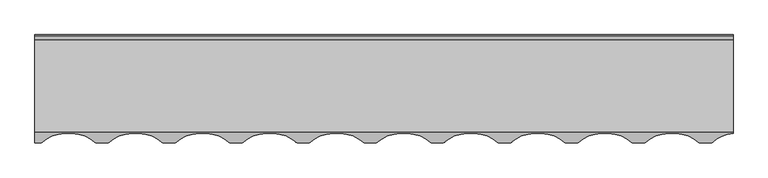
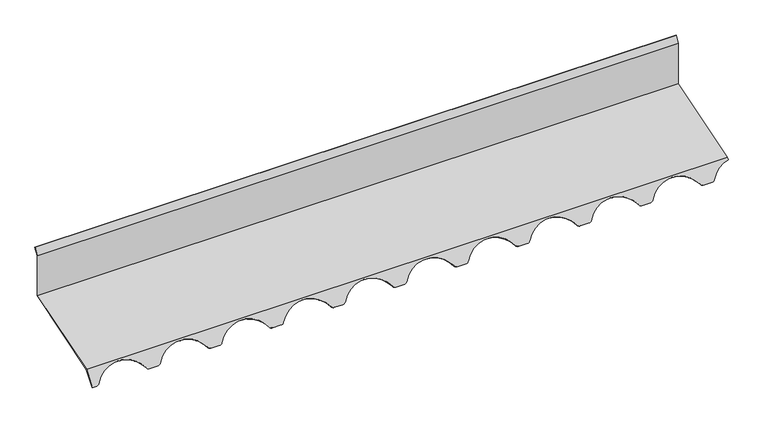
"""IFC4 building model written with IfcOpenShell, lengths in millimetres: proxy geometry, H20.F20.003-E-REMATES TEJA-Troquelado a Pared : Troquelado a Pared Teja."""

import ifcopenshell
import ifcopenshell.guid

model = None  # the IFC model being written
_history = None  # IfcOwnerHistory: only IFC2X3 demands one
_inside = {}  # id of a spatial element -> (the spatial element, [elements in it])
_under = {}  # id of a project, library or spatial element -> (it, [spatial elements below it])
_declared = {}  # id of a project -> (the project, [libraries it declares])
_typed = {}  # id of a type object -> (the type object, [elements of that type])
_made_of = {}  # id of a material, layer set ... -> (it, [elements and type objects made of it])


def new_model(schema):
    """Start an empty IFC model of exactly this schema.

    Asked for "IFC4X3", IfcOpenShell would pick the latest addendum, in which some entities
    have other attributes; the version numbers below select the first issue.
    IFC2X3 requires an IfcOwnerHistory on every rooted entity: one is made here for all.
    """
    global model, _history
    if schema == "IFC4X3":
        model = ifcopenshell.file(schema_version=(4, 3, 0, 0))
    else:
        model = ifcopenshell.file(schema=schema)
    _inside.clear()
    _under.clear()
    _declared.clear()
    _typed.clear()
    _made_of.clear()
    _history = None
    if model.schema == "IFC2X3":
        org = make("IfcOrganization", Name="unknown")
        user = make(
            "IfcPersonAndOrganization",
            ThePerson=make("IfcPerson", FamilyName="unknown"),
            TheOrganization=org,
        )
        app = make(
            "IfcApplication",
            ApplicationDeveloper=org,
            Version="unknown",
            ApplicationFullName="unknown",
            ApplicationIdentifier="unknown",
        )
        _history = make(
            "IfcOwnerHistory",
            OwningUser=user,
            OwningApplication=app,
            ChangeAction="ADDED",
            CreationDate=0,
        )
    return model


def make(cls, **values):
    """One entity of the class cls with the attributes given. An attribute that is None is left unset."""
    return model.create_entity(
        cls, **{name: value for name, value in values.items() if value is not None}
    )


def rooted(cls, **values):
    """An entity with a GlobalId (a new one), such as an element, a storey or a relation."""
    return make(cls, GlobalId=ifcopenshell.guid.new(), OwnerHistory=_history, **values)


def si_unit(unit_type, name, prefix=None):
    """IfcSIUnit, for example si_unit("LENGTHUNIT", "METRE", prefix="MILLI")."""
    return make("IfcSIUnit", UnitType=unit_type, Prefix=prefix, Name=name)


def assignment(units):
    """IfcUnitAssignment: the units of a project."""
    return None if units is None else make("IfcUnitAssignment", Units=units)


def point(xyz):
    """IfcCartesianPoint."""
    return None if xyz is None else make("IfcCartesianPoint", Coordinates=xyz)


def direction(xyz):
    """IfcDirection."""
    return None if xyz is None else make("IfcDirection", DirectionRatios=xyz)


def frame(location, z_axis=None, x_axis=None):
    """IfcAxis2Placement3D, a coordinate frame: its origin and axes. An axis left out is left unset."""
    return make(
        "IfcAxis2Placement3D",
        Location=point(location),
        Axis=direction(z_axis),
        RefDirection=direction(x_axis),
    )


def origin():
    """The frame at (0, 0, 0) with its axes left unset."""
    return frame((0.0, 0.0, 0.0))


def place(relative_to, where):
    """IfcLocalPlacement: puts the frame where relative to a parent placement (None: the world)."""
    return make(
        "IfcLocalPlacement", PlacementRelTo=relative_to, RelativePlacement=where
    )


def context(
    kind, dimensions, precision=None, world=None, true_north=None, identifier=None
):
    """IfcGeometricRepresentationContext, for example the 3D "Model" context."""
    return make(
        "IfcGeometricRepresentationContext",
        ContextIdentifier=identifier,
        ContextType=kind,
        CoordinateSpaceDimension=dimensions,
        Precision=precision,
        WorldCoordinateSystem=world,
        TrueNorth=true_north,
    )


def project(units=None, contexts=None):
    """IfcProject with its units and contexts."""
    return rooted(
        "IfcProject",
        Name="project",
        RepresentationContexts=contexts,
        UnitsInContext=assignment(units),
    )


def spatial(cls, under=None, at=None, **own):
    """A site, building, storey or space (cls), placed at a placement, below another one or the project."""
    s = rooted(cls, ObjectPlacement=at, **own)
    if under is not None:
        _under.setdefault(under.id(), (under, []))[1].append(s)
    return s


def ellipse_curve(where, semi_axis1, semi_axis2):
    """IfcEllipse in the frame where."""
    return make(
        "IfcEllipse", Position=where, SemiAxis1=semi_axis1, SemiAxis2=semi_axis2
    )


def trimmed(basis, trim1, trim2, sense, master):
    """IfcTrimmedCurve: the piece of a basis curve between two trims."""
    return make(
        "IfcTrimmedCurve",
        BasisCurve=basis,
        Trim1=trim1,
        Trim2=trim2,
        SenseAgreement=sense,
        MasterRepresentation=master,
    )


def shape(context_of_items, identifier, shape_type, items):
    """IfcShapeRepresentation: the items that make up one representation, for example the "Body"."""
    return make(
        "IfcShapeRepresentation",
        ContextOfItems=context_of_items,
        RepresentationIdentifier=identifier,
        RepresentationType=shape_type,
        Items=items,
    )


def source(mapping_origin, context_of_items, identifier, shape_type, items):
    """IfcRepresentationMap: a shape defined once, which mapped items show again and again."""
    return make(
        "IfcRepresentationMap",
        MappingOrigin=mapping_origin,
        MappedRepresentation=shape(context_of_items, identifier, shape_type, items),
    )


def transform(
    local_origin,
    x_axis=None,
    y_axis=None,
    z_axis=None,
    scale=None,
    scale2=None,
    scale3=None,
    uniform=True,
):
    """IfcCartesianTransformationOperator3D, or its non-uniform kind. x_axis, y_axis, z_axis: its Axis1, 2, 3."""
    if uniform:
        return make(
            "IfcCartesianTransformationOperator3D",
            Axis1=direction(x_axis),
            Axis2=direction(y_axis),
            LocalOrigin=point(local_origin),
            Scale=scale,
            Axis3=direction(z_axis),
        )
    return make(
        "IfcCartesianTransformationOperator3DnonUniform",
        Axis1=direction(x_axis),
        Axis2=direction(y_axis),
        LocalOrigin=point(local_origin),
        Scale=scale,
        Axis3=direction(z_axis),
        Scale2=scale2,
        Scale3=scale3,
    )


def mapped(mapping_source, mapping_target):
    """IfcMappedItem: shows the shape of a source again, moved by a transform."""
    return make(
        "IfcMappedItem", MappingSource=mapping_source, MappingTarget=mapping_target
    )


def made_of(thing, what):
    """Note that an element or type object is made of a material, layer set ...; save() writes the relation."""
    if what is not None:
        _made_of.setdefault(what.id(), (what, []))[1].append(thing)
    return thing


def element(
    cls,
    number,
    at=None,
    inside=None,
    cuts=None,
    type_object=None,
    material=None,
    context=None,
    identifier="Body",
    shape_type=None,
    held_by="IfcProductDefinitionShape",
    body=None,
    shapes=None,
    **own,
):
    """One element of the class cls, such as IfcWall. Its Tag is "e" and its number.

    at: its placement. inside: the storey or other place that contains it. cuts: it is an
    opening in that element (IfcRelVoidsElement). A single representation is given by context,
    identifier, shape_type and body (its items); several are given by shapes. held_by: the class
    of the entity that holds the representations. save() writes the other relations.
    """
    e = rooted(cls, Tag="e%d" % number, ObjectPlacement=at, **own)
    if body is not None:
        shapes = [shape(context, identifier, shape_type, body)]
    if shapes is not None:
        e.Representation = make(held_by, Representations=shapes)
    if inside is not None:
        _inside.setdefault(inside.id(), (inside, []))[1].append(e)
    if cuts is not None:
        rooted(
            "IfcRelVoidsElement", RelatingBuildingElement=cuts, RelatedOpeningElement=e
        )
    if type_object is not None:
        _typed.setdefault(type_object.id(), (type_object, []))[1].append(e)
    return made_of(e, material)


def aggregate(whole, parts):
    """IfcRelAggregates: a whole, such as a stair, and the parts it consists of."""
    return rooted("IfcRelAggregates", RelatingObject=whole, RelatedObjects=parts)


def save(model, path):
    """Write the relations noted so far, then the file.

    IfcRelAggregates (storeys below a building ...), IfcRelContainedInSpatialStructure (elements
    in a storey), IfcRelDefinesByType, IfcRelAssociatesMaterial and IfcRelDeclares: one each for
    every whole, place, type object, material and project.
    """
    for whole, parts in _under.values():
        aggregate(whole, parts)
    for where, things in _inside.values():
        rooted(
            "IfcRelContainedInSpatialStructure",
            RelatedElements=things,
            RelatingStructure=where,
        )
    for kind, things in _typed.values():
        rooted("IfcRelDefinesByType", RelatedObjects=things, RelatingType=kind)
    for what, things in _made_of.values():
        rooted("IfcRelAssociatesMaterial", RelatedObjects=things, RelatingMaterial=what)
    for by, libraries in _declared.values():
        rooted("IfcRelDeclares", RelatingContext=by, RelatedDefinitions=libraries)
    model.write(path)


def plane_surface(at):
    """IfcPlane: the flat surface through the origin of the frame at, square to its z axis."""
    return make("IfcPlane", Position=at)


def extruded_surface(curve, direction_of_extrusion, depth):
    """IfcSurfaceOfLinearExtrusion: the curve pushed along a direction by depth."""
    return make(
        "IfcSurfaceOfLinearExtrusion",
        SweptCurve=make("IfcArbitraryOpenProfileDef", ProfileType="CURVE", Curve=curve),
        ExtrudedDirection=direction(direction_of_extrusion),
        Depth=depth,
    )


def advanced_brep(points, edges, surfaces, faces):
    """IfcAdvancedBrep: a solid bounded by faces that lie on surfaces and meet in shared edges.

    An edge is (start, end): straight between two places in points (the first is 0);
    or (start, end, curve); or (start, end, curve, False) where it runs against its curve.
    A face is (place in surfaces, loops), or (place, loops, False) where it looks against
    its surface's normal. A loop lists edges by number (the first is 1), with a minus sign
    where the edge is run from its end to its start. The first loop is the outer one.
    """
    corners = [point(p) for p in points]
    vertices = [make("IfcVertexPoint", VertexGeometry=c) for c in corners]
    made = []
    for start, end, *more in edges:
        made.append(
            make(
                "IfcEdgeCurve",
                EdgeStart=vertices[start],
                EdgeEnd=vertices[end],
                EdgeGeometry=more[0] if more else make("IfcPolyline", Points=[corners[start], corners[end]]),
                SameSense=more[1] if len(more) > 1 else True,
            )
        )
    hull = []
    for where, loops, *sense in faces:
        bounds = []
        for j, loop in enumerate(loops):
            ring = [make("IfcOrientedEdge", EdgeElement=made[abs(k) - 1], Orientation=k > 0) for k in loop]
            bounds.append(
                make(
                    "IfcFaceOuterBound" if j == 0 else "IfcFaceBound",
                    Bound=make("IfcEdgeLoop", EdgeList=ring),
                    Orientation=True,
                )
            )
        hull.append(make("IfcAdvancedFace", Bounds=bounds, FaceSurface=surfaces[where], SameSense=sense[0] if sense else True))
    return make("IfcAdvancedBrep", Outer=make("IfcClosedShell", CfsFaces=hull))


def generic_models_c7695958(model_context):
    return source(origin(), model_context, "Body", "AdvancedBrep", [
        advanced_brep(
        [(0.0, 0.0, 0.0), (0.0, 0.0, 115.0), (0.0, 10.0, 132.3205081), (0.0, 11.5588457, 131.4205081), (0.0, 1.6, 114.1712813), (0.0, 1.6, -1.1839377), (0.0, -229.5451993, -71.852117), (0.0, -256.3431683, -107.3544315), (0.0, -257.6202057, -106.3904941), (0.0, -230.5094655, -70.473816), (1735.0, -230.5094655, -70.473816), (1735.0, 0.0, 0.0), (12.0278261, -257.6202057, -106.3904941), (18.9419763, -255.2613563, -103.2654582), (147.7180237, -255.2613563, -103.2654582), (154.6321739, -257.6202057, -106.3904941), (178.6878261, -257.6202057, -106.3904941), (185.6019763, -255.2613563, -103.2654582), (314.3780237, -255.2613563, -103.2654582), (321.2921739, -257.6202057, -106.3904941), (345.3478261, -257.6202057, -106.3904941), (352.2619763, -255.2613563, -103.2654582), (481.0380237, -255.2613563, -103.2654582), (487.9521739, -257.6202057, -106.3904941), (512.0078261, -257.6202057, -106.3904941), (518.9219763, -255.2613563, -103.2654582), (647.6980237, -255.2613563, -103.2654582), (654.6121739, -257.6202057, -106.3904941), (678.6678261, -257.6202057, -106.3904941), (685.5819763, -255.2613563, -103.2654582), (814.3580237, -255.2613563, -103.2654582), (821.2721739, -257.6202057, -106.3904941), (845.3278261, -257.6202057, -106.3904941), (852.2419763, -255.2613563, -103.2654582), (981.0180237, -255.2613563, -103.2654582), (987.9321739, -257.6202057, -106.3904941), (1011.9878261, -257.6202057, -106.3904941), (1018.9019763, -255.2613563, -103.2654582), (1147.6780237, -255.2613563, -103.2654582), (1154.5921739, -257.6202057, -106.3904941), (1178.6478261, -257.6202057, -106.3904941), (1185.5619763, -255.2613563, -103.2654582), (1314.3380237, -255.2613563, -103.2654582), (1321.2521739, -257.6202057, -106.3904941), (1345.3078261, -257.6202057, -106.3904941), (1352.2219763, -255.2613563, -103.2654582), (1480.9980237, -255.2613563, -103.2654582), (1487.9121739, -257.6202057, -106.3904941), (1511.9678261, -257.6202057, -106.3904941), (1518.8819763, -255.2613563, -103.2654582), (1647.6580237, -255.2613563, -103.2654582), (1654.5721739, -257.6202057, -106.3904941), (1678.6278261, -257.6202057, -106.3904941), (1685.5419763, -255.2613563, -103.2654582), (1735.0, -234.1912591, -75.3515063), (12.0278261, -256.3431683, -107.3544315), (154.6321739, -256.3431683, -107.3544315), (178.6878261, -256.3431683, -107.3544315), (321.2921739, -256.3431683, -107.3544315), (345.3478261, -256.3431683, -107.3544315), (487.9521739, -256.3431683, -107.3544315), (512.0078261, -256.3431683, -107.3544315), (654.6121739, -256.3431683, -107.3544315), (678.6678261, -256.3431683, -107.3544315), (821.2721739, -256.3431683, -107.3544315), (845.3278261, -256.3431683, -107.3544315), (987.9321739, -256.3431683, -107.3544315), (1011.9878261, -256.3431683, -107.3544315), (1154.5921739, -256.3431683, -107.3544315), (1178.6478261, -256.3431683, -107.3544315), (1321.2521739, -256.3431683, -107.3544315), (1345.3078261, -256.3431683, -107.3544315), (1487.9121739, -256.3431683, -107.3544315), (1511.9678261, -256.3431683, -107.3544315), (1654.5721739, -256.3431683, -107.3544315), (1678.6278261, -256.3431683, -107.3544315), (1735.0, -229.5451993, -71.852117), (1735.0, -232.9142216, -76.3154437), (1685.5419763, -253.9843188, -104.2293957), (1647.6580237, -253.9843188, -104.2293957), (1518.8819763, -253.9843188, -104.2293957), (1480.9980237, -253.9843188, -104.2293957), (1352.2219763, -253.9843188, -104.2293957), (1314.3380237, -253.9843188, -104.2293957), (1185.5619763, -253.9843188, -104.2293957), (1147.6780237, -253.9843188, -104.2293957), (1018.9019763, -253.9843188, -104.2293957), (981.0180237, -253.9843188, -104.2293957), (852.2419763, -253.9843188, -104.2293957), (814.3580237, -253.9843188, -104.2293957), (685.5819763, -253.9843188, -104.2293957), (647.6980237, -253.9843188, -104.2293957), (518.9219763, -253.9843188, -104.2293957), (481.0380237, -253.9843188, -104.2293957), (352.2619763, -253.9843188, -104.2293957), (314.3780237, -253.9843188, -104.2293957), (185.6019763, -253.9843188, -104.2293957), (147.7180237, -253.9843188, -104.2293957), (18.9419763, -253.9843188, -104.2293957), (1735.0, 1.6, -1.1839377), (1735.0, 1.6, 114.1712813), (1735.0, 11.5588457, 131.4205081), (1735.0, 10.0, 132.3205081), (1735.0, 0.0, 115.0)],
        [
            (0, 1),
            (1, 2),
            (2, 3),
            (3, 4),
            (4, 5),
            (5, 6),
            (6, 7),
            (7, 8),
            (8, 9),
            (9, 0),
            (9, 10),
            (10, 11),
            (11, 0),
            (8, 12),
            (12, 13, ellipse_curve(frame((12.0278261, -252.8737404, -100.1023122), z_axis=(0.0, -0.7981484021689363, 0.6024608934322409), x_axis=(1.0, 0.0, 0.0)), 8.0, 7.878462)),
            (13, 14, ellipse_curve(frame((83.33, -277.496029, -132.7222557), z_axis=(0.0, 0.7981484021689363, -0.6024608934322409), x_axis=(1.0, 0.0, 0.0)), 74.5, 73.3681776)),
            (14, 15, ellipse_curve(frame((154.6321739, -252.8737404, -100.1023122), z_axis=(0.0, -0.7981484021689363, 0.6024608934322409), x_axis=(1.0, 0.0, 0.0)), 8.0, 7.878462)),
            (15, 16),
            (16, 17, ellipse_curve(frame((178.6878261, -252.8737404, -100.1023122), z_axis=(0.0, -0.7981484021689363, 0.6024608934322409), x_axis=(1.0, 0.0, 0.0)), 8.0, 7.878462)),
            (17, 18, ellipse_curve(frame((249.99, -277.496029, -132.7222557), z_axis=(0.0, 0.7981484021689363, -0.6024608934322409), x_axis=(1.0, 0.0, 0.0)), 74.5, 73.3681776)),
            (18, 19, ellipse_curve(frame((321.2921739, -252.8737404, -100.1023122), z_axis=(0.0, -0.7981484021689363, 0.6024608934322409), x_axis=(1.0, 0.0, 0.0)), 8.0, 7.878462)),
            (19, 20),
            (20, 21, ellipse_curve(frame((345.3478261, -252.8737404, -100.1023122), z_axis=(0.0, -0.7981484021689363, 0.6024608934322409), x_axis=(1.0, 0.0, 0.0)), 8.0, 7.878462)),
            (21, 22, ellipse_curve(frame((416.65, -277.496029, -132.7222557), z_axis=(0.0, 0.7981484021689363, -0.6024608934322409), x_axis=(1.0, 0.0, 0.0)), 74.5, 73.3681776)),
            (22, 23, ellipse_curve(frame((487.9521739, -252.8737404, -100.1023122), z_axis=(0.0, -0.7981484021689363, 0.6024608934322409), x_axis=(1.0, 0.0, 0.0)), 8.0, 7.878462)),
            (23, 24),
            (24, 25, ellipse_curve(frame((512.0078261, -252.8737404, -100.1023122), z_axis=(0.0, -0.7981484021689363, 0.6024608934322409), x_axis=(1.0, 0.0, 0.0)), 8.0, 7.878462)),
            (25, 26, ellipse_curve(frame((583.31, -277.496029, -132.7222557), z_axis=(0.0, 0.7981484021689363, -0.6024608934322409), x_axis=(1.0, 0.0, 0.0)), 74.5, 73.3681776)),
            (26, 27, ellipse_curve(frame((654.6121739, -252.8737404, -100.1023122), z_axis=(0.0, -0.7981484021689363, 0.6024608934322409), x_axis=(1.0, 0.0, 0.0)), 8.0, 7.878462)),
            (27, 28),
            (28, 29, ellipse_curve(frame((678.6678261, -252.8737404, -100.1023122), z_axis=(0.0, -0.7981484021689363, 0.6024608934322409), x_axis=(1.0, 0.0, 0.0)), 8.0, 7.878462)),
            (29, 30, ellipse_curve(frame((749.97, -277.496029, -132.7222557), z_axis=(0.0, 0.7981484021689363, -0.6024608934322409), x_axis=(1.0, 0.0, 0.0)), 74.5, 73.3681776)),
            (30, 31, ellipse_curve(frame((821.2721739, -252.8737404, -100.1023122), z_axis=(0.0, -0.7981484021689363, 0.6024608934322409), x_axis=(1.0, 0.0, 0.0)), 8.0, 7.878462)),
            (31, 32),
            (32, 33, ellipse_curve(frame((845.3278261, -252.8737404, -100.1023122), z_axis=(0.0, -0.7981484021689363, 0.6024608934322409), x_axis=(1.0, 0.0, 0.0)), 8.0, 7.878462)),
            (33, 34, ellipse_curve(frame((916.63, -277.496029, -132.7222557), z_axis=(0.0, 0.7981484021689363, -0.6024608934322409), x_axis=(1.0, 0.0, 0.0)), 74.5, 73.3681776)),
            (34, 35, ellipse_curve(frame((987.9321739, -252.8737404, -100.1023122), z_axis=(0.0, -0.7981484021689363, 0.6024608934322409), x_axis=(1.0, 0.0, 0.0)), 8.0, 7.878462)),
            (35, 36),
            (36, 37, ellipse_curve(frame((1011.9878261, -252.8737404, -100.1023122), z_axis=(0.0, -0.7981484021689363, 0.6024608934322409), x_axis=(1.0, 0.0, 0.0)), 8.0, 7.878462)),
            (37, 38, ellipse_curve(frame((1083.29, -277.496029, -132.7222557), z_axis=(0.0, 0.7981484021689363, -0.6024608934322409), x_axis=(1.0, 0.0, 0.0)), 74.5, 73.3681776)),
            (38, 39, ellipse_curve(frame((1154.5921739, -252.8737404, -100.1023122), z_axis=(0.0, -0.7981484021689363, 0.6024608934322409), x_axis=(1.0, 0.0, 0.0)), 8.0, 7.878462)),
            (39, 40),
            (40, 41, ellipse_curve(frame((1178.6478261, -252.8737404, -100.1023122), z_axis=(0.0, -0.7981484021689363, 0.6024608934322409), x_axis=(1.0, 0.0, 0.0)), 8.0, 7.878462)),
            (41, 42, ellipse_curve(frame((1249.95, -277.496029, -132.7222557), z_axis=(0.0, 0.7981484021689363, -0.6024608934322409), x_axis=(1.0, 0.0, 0.0)), 74.5, 73.3681776)),
            (42, 43, ellipse_curve(frame((1321.2521739, -252.8737404, -100.1023122), z_axis=(0.0, -0.7981484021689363, 0.6024608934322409), x_axis=(1.0, 0.0, 0.0)), 8.0, 7.878462)),
            (43, 44),
            (44, 45, ellipse_curve(frame((1345.3078261, -252.8737404, -100.1023122), z_axis=(0.0, -0.7981484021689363, 0.6024608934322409), x_axis=(1.0, 0.0, 0.0)), 8.0, 7.878462)),
            (45, 46, ellipse_curve(frame((1416.61, -277.496029, -132.7222557), z_axis=(0.0, 0.7981484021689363, -0.6024608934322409), x_axis=(1.0, 0.0, 0.0)), 74.5, 73.3681776)),
            (46, 47, ellipse_curve(frame((1487.9121739, -252.8737404, -100.1023122), z_axis=(0.0, -0.7981484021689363, 0.6024608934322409), x_axis=(1.0, 0.0, 0.0)), 8.0, 7.878462)),
            (47, 48),
            (48, 49, ellipse_curve(frame((1511.9678261, -252.8737404, -100.1023122), z_axis=(0.0, -0.7981484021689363, 0.6024608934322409), x_axis=(1.0, 0.0, 0.0)), 8.0, 7.878462)),
            (49, 50, ellipse_curve(frame((1583.27, -277.496029, -132.7222557), z_axis=(0.0, 0.7981484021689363, -0.6024608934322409), x_axis=(1.0, 0.0, 0.0)), 74.5, 73.3681776)),
            (50, 51, ellipse_curve(frame((1654.5721739, -252.8737404, -100.1023122), z_axis=(0.0, -0.7981484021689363, 0.6024608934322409), x_axis=(1.0, 0.0, 0.0)), 8.0, 7.878462)),
            (51, 52),
            (52, 53, ellipse_curve(frame((1678.6278261, -252.8737404, -100.1023122), z_axis=(0.0, -0.7981484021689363, 0.6024608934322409), x_axis=(1.0, 0.0, 0.0)), 8.0, 7.878462)),
            (53, 54, ellipse_curve(frame((1749.93, -277.496029, -132.7222557), z_axis=(0.0, 0.7981484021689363, -0.6024608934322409), x_axis=(1.0, 0.0, 0.0)), 74.5, 73.3681776)),
            (54, 10),
            (7, 55),
            (55, 12),
            (15, 56),
            (56, 57),
            (57, 16),
            (19, 58),
            (58, 59),
            (59, 20),
            (23, 60),
            (60, 61),
            (61, 24),
            (27, 62),
            (62, 63),
            (63, 28),
            (31, 64),
            (64, 65),
            (65, 32),
            (35, 66),
            (66, 67),
            (67, 36),
            (39, 68),
            (68, 69),
            (69, 40),
            (43, 70),
            (70, 71),
            (71, 44),
            (47, 72),
            (72, 73),
            (73, 48),
            (51, 74),
            (74, 75),
            (75, 52),
            (6, 76),
            (76, 77),
            (77, 78, ellipse_curve(frame((1749.93, -276.2189916, -133.6861931), z_axis=(0.0, -0.7981484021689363, 0.6024608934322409), x_axis=(1.0, 0.0, 0.0)), 74.5, 73.3681776)),
            (78, 75, ellipse_curve(frame((1678.6278261, -251.596703, -101.0662496), z_axis=(0.0, 0.7981484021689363, -0.6024608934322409), x_axis=(1.0, 0.0, 0.0)), 8.0, 7.878462)),
            (74, 79, ellipse_curve(frame((1654.5721739, -251.596703, -101.0662496), z_axis=(0.0, 0.7981484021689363, -0.6024608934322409), x_axis=(1.0, 0.0, 0.0)), 8.0, 7.878462)),
            (79, 80, ellipse_curve(frame((1583.27, -276.2189916, -133.6861931), z_axis=(0.0, -0.7981484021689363, 0.6024608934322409), x_axis=(1.0, 0.0, 0.0)), 74.5, 73.3681776)),
            (80, 73, ellipse_curve(frame((1511.9678261, -251.596703, -101.0662496), z_axis=(0.0, 0.7981484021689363, -0.6024608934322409), x_axis=(1.0, 0.0, 0.0)), 8.0, 7.878462)),
            (72, 81, ellipse_curve(frame((1487.9121739, -251.596703, -101.0662496), z_axis=(0.0, 0.7981484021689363, -0.6024608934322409), x_axis=(1.0, 0.0, 0.0)), 8.0, 7.878462)),
            (81, 82, ellipse_curve(frame((1416.61, -276.2189916, -133.6861931), z_axis=(0.0, -0.7981484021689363, 0.6024608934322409), x_axis=(1.0, 0.0, 0.0)), 74.5, 73.3681776)),
            (82, 71, ellipse_curve(frame((1345.3078261, -251.596703, -101.0662496), z_axis=(0.0, 0.7981484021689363, -0.6024608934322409), x_axis=(1.0, 0.0, 0.0)), 8.0, 7.878462)),
            (70, 83, ellipse_curve(frame((1321.2521739, -251.596703, -101.0662496), z_axis=(0.0, 0.7981484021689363, -0.6024608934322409), x_axis=(1.0, 0.0, 0.0)), 8.0, 7.878462)),
            (83, 84, ellipse_curve(frame((1249.95, -276.2189916, -133.6861931), z_axis=(0.0, -0.7981484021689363, 0.6024608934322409), x_axis=(1.0, 0.0, 0.0)), 74.5, 73.3681776)),
            (84, 69, ellipse_curve(frame((1178.6478261, -251.596703, -101.0662496), z_axis=(0.0, 0.7981484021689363, -0.6024608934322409), x_axis=(1.0, 0.0, 0.0)), 8.0, 7.878462)),
            (68, 85, ellipse_curve(frame((1154.5921739, -251.596703, -101.0662496), z_axis=(0.0, 0.7981484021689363, -0.6024608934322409), x_axis=(1.0, 0.0, 0.0)), 8.0, 7.878462)),
            (85, 86, ellipse_curve(frame((1083.29, -276.2189916, -133.6861931), z_axis=(0.0, -0.7981484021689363, 0.6024608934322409), x_axis=(1.0, 0.0, 0.0)), 74.5, 73.3681776)),
            (86, 67, ellipse_curve(frame((1011.9878261, -251.596703, -101.0662496), z_axis=(0.0, 0.7981484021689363, -0.6024608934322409), x_axis=(1.0, 0.0, 0.0)), 8.0, 7.878462)),
            (66, 87, ellipse_curve(frame((987.9321739, -251.596703, -101.0662496), z_axis=(0.0, 0.7981484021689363, -0.6024608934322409), x_axis=(1.0, 0.0, 0.0)), 8.0, 7.878462)),
            (87, 88, ellipse_curve(frame((916.63, -276.2189916, -133.6861931), z_axis=(0.0, -0.7981484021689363, 0.6024608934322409), x_axis=(1.0, 0.0, 0.0)), 74.5, 73.3681776)),
            (88, 65, ellipse_curve(frame((845.3278261, -251.596703, -101.0662496), z_axis=(0.0, 0.7981484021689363, -0.6024608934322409), x_axis=(1.0, 0.0, 0.0)), 8.0, 7.878462)),
            (64, 89, ellipse_curve(frame((821.2721739, -251.596703, -101.0662496), z_axis=(0.0, 0.7981484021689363, -0.6024608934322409), x_axis=(1.0, 0.0, 0.0)), 8.0, 7.878462)),
            (89, 90, ellipse_curve(frame((749.97, -276.2189916, -133.6861931), z_axis=(0.0, -0.7981484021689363, 0.6024608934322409), x_axis=(1.0, 0.0, 0.0)), 74.5, 73.3681776)),
            (90, 63, ellipse_curve(frame((678.6678261, -251.596703, -101.0662496), z_axis=(0.0, 0.7981484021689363, -0.6024608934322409), x_axis=(1.0, 0.0, 0.0)), 8.0, 7.878462)),
            (62, 91, ellipse_curve(frame((654.6121739, -251.596703, -101.0662496), z_axis=(0.0, 0.7981484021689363, -0.6024608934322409), x_axis=(1.0, 0.0, 0.0)), 8.0, 7.878462)),
            (91, 92, ellipse_curve(frame((583.31, -276.2189916, -133.6861931), z_axis=(0.0, -0.7981484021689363, 0.6024608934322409), x_axis=(1.0, 0.0, 0.0)), 74.5, 73.3681776)),
            (92, 61, ellipse_curve(frame((512.0078261, -251.596703, -101.0662496), z_axis=(0.0, 0.7981484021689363, -0.6024608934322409), x_axis=(1.0, 0.0, 0.0)), 8.0, 7.878462)),
            (60, 93, ellipse_curve(frame((487.9521739, -251.596703, -101.0662496), z_axis=(0.0, 0.7981484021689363, -0.6024608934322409), x_axis=(1.0, 0.0, 0.0)), 8.0, 7.878462)),
            (93, 94, ellipse_curve(frame((416.65, -276.2189916, -133.6861931), z_axis=(0.0, -0.7981484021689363, 0.6024608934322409), x_axis=(1.0, 0.0, 0.0)), 74.5, 73.3681776)),
            (94, 59, ellipse_curve(frame((345.3478261, -251.596703, -101.0662496), z_axis=(0.0, 0.7981484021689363, -0.6024608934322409), x_axis=(1.0, 0.0, 0.0)), 8.0, 7.878462)),
            (58, 95, ellipse_curve(frame((321.2921739, -251.596703, -101.0662496), z_axis=(0.0, 0.7981484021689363, -0.6024608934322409), x_axis=(1.0, 0.0, 0.0)), 8.0, 7.878462)),
            (95, 96, ellipse_curve(frame((249.99, -276.2189916, -133.6861931), z_axis=(0.0, -0.7981484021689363, 0.6024608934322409), x_axis=(1.0, 0.0, 0.0)), 74.5, 73.3681776)),
            (96, 57, ellipse_curve(frame((178.6878261, -251.596703, -101.0662496), z_axis=(0.0, 0.7981484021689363, -0.6024608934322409), x_axis=(1.0, 0.0, 0.0)), 8.0, 7.878462)),
            (56, 97, ellipse_curve(frame((154.6321739, -251.596703, -101.0662496), z_axis=(0.0, 0.7981484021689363, -0.6024608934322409), x_axis=(1.0, 0.0, 0.0)), 8.0, 7.878462)),
            (97, 98, ellipse_curve(frame((83.33, -276.2189916, -133.6861931), z_axis=(0.0, -0.7981484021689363, 0.6024608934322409), x_axis=(1.0, 0.0, 0.0)), 74.5, 73.3681776)),
            (98, 55, ellipse_curve(frame((12.0278261, -251.596703, -101.0662496), z_axis=(0.0, 0.7981484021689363, -0.6024608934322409), x_axis=(1.0, 0.0, 0.0)), 8.0, 7.878462)),
            (13, 98),
            (97, 14),
            (96, 17),
            (95, 18),
            (94, 21),
            (93, 22),
            (92, 25),
            (91, 26),
            (90, 29),
            (89, 30),
            (88, 33),
            (87, 34),
            (86, 37),
            (85, 38),
            (84, 41),
            (83, 42),
            (82, 45),
            (81, 46),
            (80, 49),
            (79, 50),
            (78, 53),
            (77, 54),
            (5, 99),
            (99, 76),
            (4, 100),
            (100, 99),
            (3, 101),
            (101, 100),
            (2, 102),
            (102, 101),
            (1, 103),
            (103, 102),
            (11, 103),
        ],
        [
            plane_surface(frame((0.0, 0.0, 0.0), z_axis=(-1.0, 0.0, 0.0), x_axis=(0.0, 0.0, 1.0))),
            plane_surface(frame((2500.0, 0.0, 0.0), z_axis=(0.0, -0.2923717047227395, 0.9563047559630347), x_axis=(-1.0, 0.0, 0.0))),
            plane_surface(frame((2500.0, -230.5094655, -70.473816), z_axis=(0.0, -0.7981484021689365, 0.6024608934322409), x_axis=(-1.0, 0.0, 0.0))),
            plane_surface(frame((2500.0, -257.6202057, -106.3904941), z_axis=(0.0, -0.6024608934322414, -0.798148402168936), x_axis=(-1.0, 0.0, 0.0))),
            plane_surface(frame((2500.0, -256.3431683, -107.3544315), z_axis=(0.0, 0.7981484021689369, -0.6024608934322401), x_axis=(-1.0, 0.0, 0.0))),
            extruded_surface(trimmed(ellipse_curve(frame((83.33, -277.496029, -132.7222557), z_axis=(0.0, 0.7981484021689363, -0.6024608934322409), x_axis=(1.0, 0.0, 0.0)), 74.5, 73.3681776), [point((18.9419763, -255.2613563, -103.2654582))], [point((147.7180237, -255.2613563, -103.2654582))], True, "CARTESIAN"), (0.0, -1.5962968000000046, 1.204921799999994), 2.00000000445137),
            extruded_surface(trimmed(ellipse_curve(frame((154.6321739, -252.8737404, -100.1023122), z_axis=(0.0, -0.7981484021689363, 0.6024608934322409), x_axis=(1.0, 0.0, 0.0)), 8.0, 7.878462), [point((147.7180237, -255.2613563, -103.2654582))], [point((154.6321739, -257.6202057, -106.3904941))], True, "CARTESIAN"), (0.0, -1.5962968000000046, 1.204921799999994), 2.00000000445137),
            extruded_surface(trimmed(ellipse_curve(frame((178.6878261, -252.8737404, -100.1023122), z_axis=(0.0, -0.7981484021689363, 0.6024608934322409), x_axis=(1.0, 0.0, 0.0)), 8.0, 7.878462), [point((178.6878261, -257.6202057, -106.3904941))], [point((185.6019763, -255.2613563, -103.2654582))], True, "CARTESIAN"), (0.0, -1.5962968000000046, 1.204921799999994), 2.00000000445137),
            extruded_surface(trimmed(ellipse_curve(frame((249.99, -277.496029, -132.7222557), z_axis=(0.0, 0.7981484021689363, -0.6024608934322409), x_axis=(1.0, 0.0, 0.0)), 74.5, 73.3681776), [point((185.6019763, -255.2613563, -103.2654582))], [point((314.3780237, -255.2613563, -103.2654582))], True, "CARTESIAN"), (0.0, -1.5962968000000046, 1.204921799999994), 2.00000000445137),
            extruded_surface(trimmed(ellipse_curve(frame((321.2921739, -252.8737404, -100.1023122), z_axis=(0.0, -0.7981484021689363, 0.6024608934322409), x_axis=(1.0, 0.0, 0.0)), 8.0, 7.878462), [point((314.3780237, -255.2613563, -103.2654582))], [point((321.2921739, -257.6202057, -106.3904941))], True, "CARTESIAN"), (0.0, -1.5962968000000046, 1.204921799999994), 2.00000000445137),
            extruded_surface(trimmed(ellipse_curve(frame((345.3478261, -252.8737404, -100.1023122), z_axis=(0.0, -0.7981484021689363, 0.6024608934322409), x_axis=(1.0, 0.0, 0.0)), 8.0, 7.878462), [point((345.3478261, -257.6202057, -106.3904941))], [point((352.2619763, -255.2613563, -103.2654582))], True, "CARTESIAN"), (0.0, -1.5962968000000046, 1.204921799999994), 2.00000000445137),
            extruded_surface(trimmed(ellipse_curve(frame((416.65, -277.496029, -132.7222557), z_axis=(0.0, 0.7981484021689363, -0.6024608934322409), x_axis=(1.0, 0.0, 0.0)), 74.5, 73.3681776), [point((352.2619763, -255.2613563, -103.2654582))], [point((481.0380237, -255.2613563, -103.2654582))], True, "CARTESIAN"), (0.0, -1.5962968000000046, 1.204921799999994), 2.00000000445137),
            extruded_surface(trimmed(ellipse_curve(frame((487.9521739, -252.8737404, -100.1023122), z_axis=(0.0, -0.7981484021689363, 0.6024608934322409), x_axis=(1.0, 0.0, 0.0)), 8.0, 7.878462), [point((481.0380237, -255.2613563, -103.2654582))], [point((487.9521739, -257.6202057, -106.3904941))], True, "CARTESIAN"), (0.0, -1.5962968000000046, 1.204921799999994), 2.00000000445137),
            extruded_surface(trimmed(ellipse_curve(frame((512.0078261, -252.8737404, -100.1023122), z_axis=(0.0, -0.7981484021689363, 0.6024608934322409), x_axis=(1.0, 0.0, 0.0)), 8.0, 7.878462), [point((512.0078261, -257.6202057, -106.3904941))], [point((518.9219763, -255.2613563, -103.2654582))], True, "CARTESIAN"), (0.0, -1.5962968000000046, 1.204921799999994), 2.00000000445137),
            extruded_surface(trimmed(ellipse_curve(frame((583.31, -277.496029, -132.7222557), z_axis=(0.0, 0.7981484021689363, -0.6024608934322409), x_axis=(1.0, 0.0, 0.0)), 74.5, 73.3681776), [point((518.9219763, -255.2613563, -103.2654582))], [point((647.6980237, -255.2613563, -103.2654582))], True, "CARTESIAN"), (0.0, -1.5962968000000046, 1.204921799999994), 2.00000000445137),
            extruded_surface(trimmed(ellipse_curve(frame((654.6121739, -252.8737404, -100.1023122), z_axis=(0.0, -0.7981484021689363, 0.6024608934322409), x_axis=(1.0, 0.0, 0.0)), 8.0, 7.878462), [point((647.6980237, -255.2613563, -103.2654582))], [point((654.6121739, -257.6202057, -106.3904941))], True, "CARTESIAN"), (0.0, -1.5962968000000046, 1.204921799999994), 2.00000000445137),
            extruded_surface(trimmed(ellipse_curve(frame((678.6678261, -252.8737404, -100.1023122), z_axis=(0.0, -0.7981484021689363, 0.6024608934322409), x_axis=(1.0, 0.0, 0.0)), 8.0, 7.878462), [point((678.6678261, -257.6202057, -106.3904941))], [point((685.5819763, -255.2613563, -103.2654582))], True, "CARTESIAN"), (0.0, -1.5962968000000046, 1.204921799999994), 2.00000000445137),
            extruded_surface(trimmed(ellipse_curve(frame((749.97, -277.496029, -132.7222557), z_axis=(0.0, 0.7981484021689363, -0.6024608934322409), x_axis=(1.0, 0.0, 0.0)), 74.5, 73.3681776), [point((685.5819763, -255.2613563, -103.2654582))], [point((814.3580237, -255.2613563, -103.2654582))], True, "CARTESIAN"), (0.0, -1.5962968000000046, 1.204921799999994), 2.00000000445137),
            extruded_surface(trimmed(ellipse_curve(frame((821.2721739, -252.8737404, -100.1023122), z_axis=(0.0, -0.7981484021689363, 0.6024608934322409), x_axis=(1.0, 0.0, 0.0)), 8.0, 7.878462), [point((814.3580237, -255.2613563, -103.2654582))], [point((821.2721739, -257.6202057, -106.3904941))], True, "CARTESIAN"), (0.0, -1.5962968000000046, 1.204921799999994), 2.00000000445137),
            extruded_surface(trimmed(ellipse_curve(frame((845.3278261, -252.8737404, -100.1023122), z_axis=(0.0, -0.7981484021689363, 0.6024608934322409), x_axis=(1.0, 0.0, 0.0)), 8.0, 7.878462), [point((845.3278261, -257.6202057, -106.3904941))], [point((852.2419763, -255.2613563, -103.2654582))], True, "CARTESIAN"), (0.0, -1.5962968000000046, 1.204921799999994), 2.00000000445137),
            extruded_surface(trimmed(ellipse_curve(frame((916.63, -277.496029, -132.7222557), z_axis=(0.0, 0.7981484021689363, -0.6024608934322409), x_axis=(1.0, 0.0, 0.0)), 74.5, 73.3681776), [point((852.2419763, -255.2613563, -103.2654582))], [point((981.0180237, -255.2613563, -103.2654582))], True, "CARTESIAN"), (0.0, -1.5962968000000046, 1.204921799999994), 2.00000000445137),
            extruded_surface(trimmed(ellipse_curve(frame((987.9321739, -252.8737404, -100.1023122), z_axis=(0.0, -0.7981484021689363, 0.6024608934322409), x_axis=(1.0, 0.0, 0.0)), 8.0, 7.878462), [point((981.0180237, -255.2613563, -103.2654582))], [point((987.9321739, -257.6202057, -106.3904941))], True, "CARTESIAN"), (0.0, -1.5962968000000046, 1.204921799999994), 2.00000000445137),
            extruded_surface(trimmed(ellipse_curve(frame((1011.9878261, -252.8737404, -100.1023122), z_axis=(0.0, -0.7981484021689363, 0.6024608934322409), x_axis=(1.0, 0.0, 0.0)), 8.0, 7.878462), [point((1011.9878261, -257.6202057, -106.3904941))], [point((1018.9019763, -255.2613563, -103.2654582))], True, "CARTESIAN"), (0.0, -1.5962968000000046, 1.204921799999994), 2.00000000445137),
            extruded_surface(trimmed(ellipse_curve(frame((1083.29, -277.496029, -132.7222557), z_axis=(0.0, 0.7981484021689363, -0.6024608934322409), x_axis=(1.0, 0.0, 0.0)), 74.5, 73.3681776), [point((1018.9019763, -255.2613563, -103.2654582))], [point((1147.6780237, -255.2613563, -103.2654582))], True, "CARTESIAN"), (0.0, -1.5962968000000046, 1.204921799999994), 2.00000000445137),
            extruded_surface(trimmed(ellipse_curve(frame((1154.5921739, -252.8737404, -100.1023122), z_axis=(0.0, -0.7981484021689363, 0.6024608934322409), x_axis=(1.0, 0.0, 0.0)), 8.0, 7.878462), [point((1147.6780237, -255.2613563, -103.2654582))], [point((1154.5921739, -257.6202057, -106.3904941))], True, "CARTESIAN"), (0.0, -1.5962968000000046, 1.204921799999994), 2.00000000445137),
            extruded_surface(trimmed(ellipse_curve(frame((1178.6478261, -252.8737404, -100.1023122), z_axis=(0.0, -0.7981484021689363, 0.6024608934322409), x_axis=(1.0, 0.0, 0.0)), 8.0, 7.878462), [point((1178.6478261, -257.6202057, -106.3904941))], [point((1185.5619763, -255.2613563, -103.2654582))], True, "CARTESIAN"), (0.0, -1.5962968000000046, 1.204921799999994), 2.00000000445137),
            extruded_surface(trimmed(ellipse_curve(frame((1249.95, -277.496029, -132.7222557), z_axis=(0.0, 0.7981484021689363, -0.6024608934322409), x_axis=(1.0, 0.0, 0.0)), 74.5, 73.3681776), [point((1185.5619763, -255.2613563, -103.2654582))], [point((1314.3380237, -255.2613563, -103.2654582))], True, "CARTESIAN"), (0.0, -1.5962968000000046, 1.204921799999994), 2.00000000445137),
            extruded_surface(trimmed(ellipse_curve(frame((1321.2521739, -252.8737404, -100.1023122), z_axis=(0.0, -0.7981484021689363, 0.6024608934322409), x_axis=(1.0, 0.0, 0.0)), 8.0, 7.878462), [point((1314.3380237, -255.2613563, -103.2654582))], [point((1321.2521739, -257.6202057, -106.3904941))], True, "CARTESIAN"), (0.0, -1.5962968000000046, 1.204921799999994), 2.00000000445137),
            extruded_surface(trimmed(ellipse_curve(frame((1345.3078261, -252.8737404, -100.1023122), z_axis=(0.0, -0.7981484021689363, 0.6024608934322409), x_axis=(1.0, 0.0, 0.0)), 8.0, 7.878462), [point((1345.3078261, -257.6202057, -106.3904941))], [point((1352.2219763, -255.2613563, -103.2654582))], True, "CARTESIAN"), (0.0, -1.5962968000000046, 1.204921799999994), 2.00000000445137),
            extruded_surface(trimmed(ellipse_curve(frame((1416.61, -277.496029, -132.7222557), z_axis=(0.0, 0.7981484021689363, -0.6024608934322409), x_axis=(1.0, 0.0, 0.0)), 74.5, 73.3681776), [point((1352.2219763, -255.2613563, -103.2654582))], [point((1480.9980237, -255.2613563, -103.2654582))], True, "CARTESIAN"), (0.0, -1.5962968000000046, 1.204921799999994), 2.00000000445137),
            extruded_surface(trimmed(ellipse_curve(frame((1487.9121739, -252.8737404, -100.1023122), z_axis=(0.0, -0.7981484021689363, 0.6024608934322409), x_axis=(1.0, 0.0, 0.0)), 8.0, 7.878462), [point((1480.9980237, -255.2613563, -103.2654582))], [point((1487.9121739, -257.6202057, -106.3904941))], True, "CARTESIAN"), (0.0, -1.5962968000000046, 1.204921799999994), 2.00000000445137),
            extruded_surface(trimmed(ellipse_curve(frame((1511.9678261, -252.8737404, -100.1023122), z_axis=(0.0, -0.7981484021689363, 0.6024608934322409), x_axis=(1.0, 0.0, 0.0)), 8.0, 7.878462), [point((1511.9678261, -257.6202057, -106.3904941))], [point((1518.8819763, -255.2613563, -103.2654582))], True, "CARTESIAN"), (0.0, -1.5962968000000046, 1.204921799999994), 2.00000000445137),
            extruded_surface(trimmed(ellipse_curve(frame((1583.27, -277.496029, -132.7222557), z_axis=(0.0, 0.7981484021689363, -0.6024608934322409), x_axis=(1.0, 0.0, 0.0)), 74.5, 73.3681776), [point((1518.8819763, -255.2613563, -103.2654582))], [point((1647.6580237, -255.2613563, -103.2654582))], True, "CARTESIAN"), (0.0, -1.5962968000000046, 1.204921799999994), 2.00000000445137),
            extruded_surface(trimmed(ellipse_curve(frame((1654.5721739, -252.8737404, -100.1023122), z_axis=(0.0, -0.7981484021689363, 0.6024608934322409), x_axis=(1.0, 0.0, 0.0)), 8.0, 7.878462), [point((1647.6580237, -255.2613563, -103.2654582))], [point((1654.5721739, -257.6202057, -106.3904941))], True, "CARTESIAN"), (0.0, -1.5962968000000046, 1.204921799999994), 2.00000000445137),
            extruded_surface(trimmed(ellipse_curve(frame((1678.6278261, -252.8737404, -100.1023122), z_axis=(0.0, -0.7981484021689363, 0.6024608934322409), x_axis=(1.0, 0.0, 0.0)), 8.0, 7.878462), [point((1678.6278261, -257.6202057, -106.3904941))], [point((1685.5419763, -255.2613563, -103.2654582))], True, "CARTESIAN"), (0.0, -1.5962968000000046, 1.204921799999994), 2.00000000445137),
            extruded_surface(trimmed(ellipse_curve(frame((1749.93, -277.496029, -132.7222557), z_axis=(0.0, 0.7981484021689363, -0.6024608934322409), x_axis=(1.0, 0.0, 0.0)), 74.5, 73.3681776), [point((1685.5419763, -255.2613563, -103.2654582))], [point((1814.3180237, -255.2613563, -103.2654582))], True, "CARTESIAN"), (0.0, -1.5962968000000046, 1.204921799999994), 2.00000000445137),
            extruded_surface(trimmed(ellipse_curve(frame((12.0278261, -252.8737404, -100.1023122), z_axis=(0.0, -0.7981484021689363, 0.6024608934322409), x_axis=(1.0, 0.0, 0.0)), 8.0, 7.878462), [point((12.0278261, -257.6202057, -106.3904941))], [point((18.9419763, -255.2613563, -103.2654582))], True, "CARTESIAN"), (0.0, -1.5962968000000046, 1.204921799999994), 2.00000000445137),
            plane_surface(frame((2500.0, -229.5451993, -71.852117), z_axis=(0.0, 0.2923717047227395, -0.9563047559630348), x_axis=(-1.0, 0.0, 0.0))),
            plane_surface(frame((2500.0, 1.6, -1.1839377), z_axis=(0.0, 1.0, 0.0), x_axis=(-1.0, 0.0, 0.0))),
            plane_surface(frame((2500.0, 1.6, 114.1712813), z_axis=(0.0, 0.866025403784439, -0.49999999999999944), x_axis=(-1.0, 0.0, 0.0))),
            plane_surface(frame((2500.0, 11.5588457, 131.4205081), z_axis=(0.0, 0.4999999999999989, 0.8660254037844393), x_axis=(-1.0, 0.0, 0.0))),
            plane_surface(frame((2500.0, 10.0, 132.3205081), z_axis=(0.0, -0.8660254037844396, 0.4999999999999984), x_axis=(-1.0, 0.0, 0.0))),
            plane_surface(frame((2500.0, 0.0, 115.0), z_axis=(0.0, -1.0, 0.0), x_axis=(-1.0, 0.0, 0.0))),
            plane_surface(frame((1735.0, 196.3809555, 250.0), z_axis=(1.0, 0.0, 0.0), x_axis=(0.0, 0.0, -1.0))),
        ],
        [
            (0, [[1, 2, 3, 4, 5, 6, 7, 8, 9, 10]]),
            (1, [[-10, 11, 12, 13]]),
            (2, [[-9, 14, 15, 16, 17, 18, 19, 20, 21, 22, 23, 24, 25, 26, 27, 28, 29, 30, 31, 32, 33, 34, 35, 36, 37, 38, 39, 40, 41, 42, 43, 44, 45, 46, 47, 48, 49, 50, 51, 52, 53, 54, 55, 56, 57, -11]]),
            (3, [[-8, 58, 59, -14]]),
            (3, [[-18, 60, 61, 62]]),
            (3, [[-22, 63, 64, 65]]),
            (3, [[-26, 66, 67, 68]]),
            (3, [[-30, 69, 70, 71]]),
            (3, [[-34, 72, 73, 74]]),
            (3, [[-38, 75, 76, 77]]),
            (3, [[-42, 78, 79, 80]]),
            (3, [[-46, 81, 82, 83]]),
            (3, [[-50, 84, 85, 86]]),
            (3, [[-54, 87, 88, 89]]),
            (4, [[-7, 90, 91, 92, 93, -88, 94, 95, 96, -85, 97, 98, 99, -82, 100, 101, 102, -79, 103, 104, 105, -76, 106, 107, 108, -73, 109, 110, 111, -70, 112, 113, 114, -67, 115, 116, 117, -64, 118, 119, 120, -61, 121, 122, 123, -58]]),
            (5, [[124, -122, 125, -16]]),
            (6, [[-125, -121, -60, -17]]),
            (7, [[126, -19, -62, -120]]),
            (8, [[-126, -119, 127, -20]]),
            (9, [[-127, -118, -63, -21]]),
            (10, [[128, -23, -65, -117]]),
            (11, [[-128, -116, 129, -24]]),
            (12, [[-129, -115, -66, -25]]),
            (13, [[130, -27, -68, -114]]),
            (14, [[-130, -113, 131, -28]]),
            (15, [[-131, -112, -69, -29]]),
            (16, [[132, -31, -71, -111]]),
            (17, [[-132, -110, 133, -32]]),
            (18, [[-133, -109, -72, -33]]),
            (19, [[134, -35, -74, -108]]),
            (20, [[-134, -107, 135, -36]]),
            (21, [[-135, -106, -75, -37]]),
            (22, [[136, -39, -77, -105]]),
            (23, [[-136, -104, 137, -40]]),
            (24, [[-137, -103, -78, -41]]),
            (25, [[138, -43, -80, -102]]),
            (26, [[-138, -101, 139, -44]]),
            (27, [[-139, -100, -81, -45]]),
            (28, [[140, -47, -83, -99]]),
            (29, [[-140, -98, 141, -48]]),
            (30, [[-141, -97, -84, -49]]),
            (31, [[142, -51, -86, -96]]),
            (32, [[-142, -95, 143, -52]]),
            (33, [[-143, -94, -87, -53]]),
            (34, [[144, -55, -89, -93]]),
            (35, [[-144, -92, 145, -56]]),
            (36, [[-124, -15, -59, -123]]),
            (37, [[-6, 146, 147, -90]]),
            (38, [[-5, 148, 149, -146]]),
            (39, [[-4, 150, 151, -148]]),
            (40, [[-3, 152, 153, -150]]),
            (41, [[-2, 154, 155, -152]]),
            (42, [[-1, -13, 156, -154]]),
            (43, [[-12, -57, -145, -91, -147, -149, -151, -153, -155, -156]]),
        ],
    ),
    ])


if __name__ == "__main__":
    model = new_model("IFC4")
    model_context = context("Model", 3, world=origin())
    ifc_project = project(units=[si_unit("LENGTHUNIT", "METRE", prefix="MILLI")], contexts=[model_context])
    site = spatial("IfcSite", under=ifc_project)
    building = spatial("IfcBuilding", under=site)
    placement = place(None, origin())
    generic_models_shape = generic_models_c7695958(model_context)
    element("IfcBuildingElementProxy", 1, Name="H20.F20.003-E-REMATES TEJA-Troquelado a Pared : Troquelado a Pared Teja", ObjectType="H20.F20.003-E-REMATES TEJA-Troquelado a Pared : Troquelado a Pared Teja", at=placement, inside=building, context=model_context, shape_type="MappedRepresentation", body=[
        mapped(generic_models_shape, transform((0.0, 0.0, 0.0), x_axis=(1.0, 0.0, 0.0), y_axis=(0.0, 1.0, 0.0), z_axis=(0.0, 0.0, 1.0))),
    ])
    save(model, "model.ifc")
